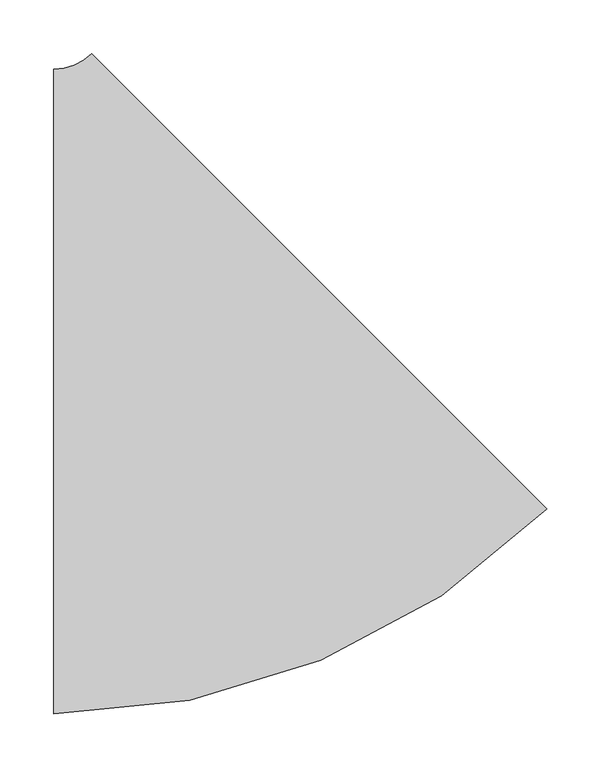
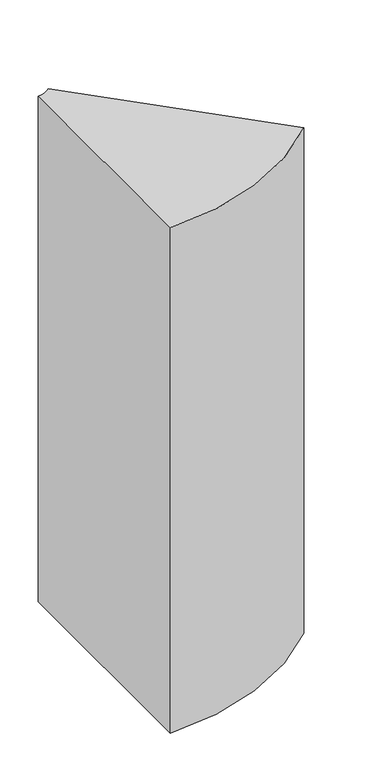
"""IFC4 building model written with IfcOpenShell, lengths in millimetres: duct fitting geometry, ADSK_ОтводВоздуховодов_Прямоугольный1 : Стандарт 2."""

import ifcopenshell
import ifcopenshell.guid

model = None  # the IFC model being written
_history = None  # IfcOwnerHistory: only IFC2X3 demands one
_inside = {}  # id of a spatial element -> (the spatial element, [elements in it])
_under = {}  # id of a project, library or spatial element -> (it, [spatial elements below it])
_declared = {}  # id of a project -> (the project, [libraries it declares])
_typed = {}  # id of a type object -> (the type object, [elements of that type])
_made_of = {}  # id of a material, layer set ... -> (it, [elements and type objects made of it])


def new_model(schema):
    """Start an empty IFC model of exactly this schema.

    Asked for "IFC4X3", IfcOpenShell would pick the latest addendum, in which some entities
    have other attributes; the version numbers below select the first issue.
    IFC2X3 requires an IfcOwnerHistory on every rooted entity: one is made here for all.
    """
    global model, _history
    if schema == "IFC4X3":
        model = ifcopenshell.file(schema_version=(4, 3, 0, 0))
    else:
        model = ifcopenshell.file(schema=schema)
    _inside.clear()
    _under.clear()
    _declared.clear()
    _typed.clear()
    _made_of.clear()
    _history = None
    if model.schema == "IFC2X3":
        org = make("IfcOrganization", Name="unknown")
        user = make(
            "IfcPersonAndOrganization",
            ThePerson=make("IfcPerson", FamilyName="unknown"),
            TheOrganization=org,
        )
        app = make(
            "IfcApplication",
            ApplicationDeveloper=org,
            Version="unknown",
            ApplicationFullName="unknown",
            ApplicationIdentifier="unknown",
        )
        _history = make(
            "IfcOwnerHistory",
            OwningUser=user,
            OwningApplication=app,
            ChangeAction="ADDED",
            CreationDate=0,
        )
    return model


def make(cls, **values):
    """One entity of the class cls with the attributes given. An attribute that is None is left unset."""
    return model.create_entity(
        cls, **{name: value for name, value in values.items() if value is not None}
    )


def rooted(cls, **values):
    """An entity with a GlobalId (a new one), such as an element, a storey or a relation."""
    return make(cls, GlobalId=ifcopenshell.guid.new(), OwnerHistory=_history, **values)


def si_unit(unit_type, name, prefix=None):
    """IfcSIUnit, for example si_unit("LENGTHUNIT", "METRE", prefix="MILLI")."""
    return make("IfcSIUnit", UnitType=unit_type, Prefix=prefix, Name=name)


def assignment(units):
    """IfcUnitAssignment: the units of a project."""
    return None if units is None else make("IfcUnitAssignment", Units=units)


def point(xyz):
    """IfcCartesianPoint."""
    return None if xyz is None else make("IfcCartesianPoint", Coordinates=xyz)


def direction(xyz):
    """IfcDirection."""
    return None if xyz is None else make("IfcDirection", DirectionRatios=xyz)


def frame(location, z_axis=None, x_axis=None):
    """IfcAxis2Placement3D, a coordinate frame: its origin and axes. An axis left out is left unset."""
    return make(
        "IfcAxis2Placement3D",
        Location=point(location),
        Axis=direction(z_axis),
        RefDirection=direction(x_axis),
    )


def frame_2d(location, x_axis=None):
    """IfcAxis2Placement2D, a coordinate frame in the plane: its origin and x axis."""
    return make(
        "IfcAxis2Placement2D", Location=point(location), RefDirection=direction(x_axis)
    )


def origin():
    """The frame at (0, 0, 0) with its axes left unset."""
    return frame((0.0, 0.0, 0.0))


def place(relative_to, where):
    """IfcLocalPlacement: puts the frame where relative to a parent placement (None: the world)."""
    return make(
        "IfcLocalPlacement", PlacementRelTo=relative_to, RelativePlacement=where
    )


def context(
    kind, dimensions, precision=None, world=None, true_north=None, identifier=None
):
    """IfcGeometricRepresentationContext, for example the 3D "Model" context."""
    return make(
        "IfcGeometricRepresentationContext",
        ContextIdentifier=identifier,
        ContextType=kind,
        CoordinateSpaceDimension=dimensions,
        Precision=precision,
        WorldCoordinateSystem=world,
        TrueNorth=true_north,
    )


def project(units=None, contexts=None):
    """IfcProject with its units and contexts."""
    return rooted(
        "IfcProject",
        Name="project",
        RepresentationContexts=contexts,
        UnitsInContext=assignment(units),
    )


def spatial(cls, under=None, at=None, **own):
    """A site, building, storey or space (cls), placed at a placement, below another one or the project."""
    s = rooted(cls, ObjectPlacement=at, **own)
    if under is not None:
        _under.setdefault(under.id(), (under, []))[1].append(s)
    return s


def polyline(points):
    """IfcPolyline through the points."""
    return make("IfcPolyline", Points=[point(p) for p in points])


def circle_curve(where, radius):
    """IfcCircle in the frame where."""
    return make("IfcCircle", Position=where, Radius=radius)


def trimmed(basis, trim1, trim2, sense, master):
    """IfcTrimmedCurve: the piece of a basis curve between two trims."""
    return make(
        "IfcTrimmedCurve",
        BasisCurve=basis,
        Trim1=trim1,
        Trim2=trim2,
        SenseAgreement=sense,
        MasterRepresentation=master,
    )


def segment(curve, same_sense, transition):
    """IfcCompositeCurveSegment."""
    return make(
        "IfcCompositeCurveSegment",
        Transition=transition,
        SameSense=same_sense,
        ParentCurve=curve,
    )


def composite_curve(segments, self_intersect=None):
    """IfcCompositeCurve: segments joined end to end."""
    return make("IfcCompositeCurve", Segments=segments, SelfIntersect=self_intersect)


def outline(outer, holes=None, kind="AREA"):
    """IfcArbitraryClosedProfileDef: a profile drawn as a closed curve; with holes, ...WithVoids."""
    if holes is None:
        return make("IfcArbitraryClosedProfileDef", ProfileType=kind, OuterCurve=outer)
    return make(
        "IfcArbitraryProfileDefWithVoids",
        ProfileType=kind,
        OuterCurve=outer,
        InnerCurves=holes,
    )


def extrude(swept, where, along, depth):
    """IfcExtrudedAreaSolid: the profile swept, set in the frame where, extruded along a direction by depth."""
    return make(
        "IfcExtrudedAreaSolid",
        SweptArea=swept,
        Position=where,
        ExtrudedDirection=direction(along),
        Depth=depth,
    )


def shape(context_of_items, identifier, shape_type, items):
    """IfcShapeRepresentation: the items that make up one representation, for example the "Body"."""
    return make(
        "IfcShapeRepresentation",
        ContextOfItems=context_of_items,
        RepresentationIdentifier=identifier,
        RepresentationType=shape_type,
        Items=items,
    )


def source(mapping_origin, context_of_items, identifier, shape_type, items):
    """IfcRepresentationMap: a shape defined once, which mapped items show again and again."""
    return make(
        "IfcRepresentationMap",
        MappingOrigin=mapping_origin,
        MappedRepresentation=shape(context_of_items, identifier, shape_type, items),
    )


def transform(
    local_origin,
    x_axis=None,
    y_axis=None,
    z_axis=None,
    scale=None,
    scale2=None,
    scale3=None,
    uniform=True,
):
    """IfcCartesianTransformationOperator3D, or its non-uniform kind. x_axis, y_axis, z_axis: its Axis1, 2, 3."""
    if uniform:
        return make(
            "IfcCartesianTransformationOperator3D",
            Axis1=direction(x_axis),
            Axis2=direction(y_axis),
            LocalOrigin=point(local_origin),
            Scale=scale,
            Axis3=direction(z_axis),
        )
    return make(
        "IfcCartesianTransformationOperator3DnonUniform",
        Axis1=direction(x_axis),
        Axis2=direction(y_axis),
        LocalOrigin=point(local_origin),
        Scale=scale,
        Axis3=direction(z_axis),
        Scale2=scale2,
        Scale3=scale3,
    )


def mapped(mapping_source, mapping_target):
    """IfcMappedItem: shows the shape of a source again, moved by a transform."""
    return make(
        "IfcMappedItem", MappingSource=mapping_source, MappingTarget=mapping_target
    )


def made_of(thing, what):
    """Note that an element or type object is made of a material, layer set ...; save() writes the relation."""
    if what is not None:
        _made_of.setdefault(what.id(), (what, []))[1].append(thing)
    return thing


def element(
    cls,
    number,
    at=None,
    inside=None,
    cuts=None,
    type_object=None,
    material=None,
    context=None,
    identifier="Body",
    shape_type=None,
    held_by="IfcProductDefinitionShape",
    body=None,
    shapes=None,
    **own,
):
    """One element of the class cls, such as IfcWall. Its Tag is "e" and its number.

    at: its placement. inside: the storey or other place that contains it. cuts: it is an
    opening in that element (IfcRelVoidsElement). A single representation is given by context,
    identifier, shape_type and body (its items); several are given by shapes. held_by: the class
    of the entity that holds the representations. save() writes the other relations.
    """
    e = rooted(cls, Tag="e%d" % number, ObjectPlacement=at, **own)
    if body is not None:
        shapes = [shape(context, identifier, shape_type, body)]
    if shapes is not None:
        e.Representation = make(held_by, Representations=shapes)
    if inside is not None:
        _inside.setdefault(inside.id(), (inside, []))[1].append(e)
    if cuts is not None:
        rooted(
            "IfcRelVoidsElement", RelatingBuildingElement=cuts, RelatedOpeningElement=e
        )
    if type_object is not None:
        _typed.setdefault(type_object.id(), (type_object, []))[1].append(e)
    return made_of(e, material)


def aggregate(whole, parts):
    """IfcRelAggregates: a whole, such as a stair, and the parts it consists of."""
    return rooted("IfcRelAggregates", RelatingObject=whole, RelatedObjects=parts)


def save(model, path):
    """Write the relations noted so far, then the file.

    IfcRelAggregates (storeys below a building ...), IfcRelContainedInSpatialStructure (elements
    in a storey), IfcRelDefinesByType, IfcRelAssociatesMaterial and IfcRelDeclares: one each for
    every whole, place, type object, material and project.
    """
    for whole, parts in _under.values():
        aggregate(whole, parts)
    for where, things in _inside.values():
        rooted(
            "IfcRelContainedInSpatialStructure",
            RelatedElements=things,
            RelatingStructure=where,
        )
    for kind, things in _typed.values():
        rooted("IfcRelDefinesByType", RelatedObjects=things, RelatingType=kind)
    for what, things in _made_of.values():
        rooted("IfcRelAssociatesMaterial", RelatedObjects=things, RelatingMaterial=what)
    for by, libraries in _declared.values():
        rooted("IfcRelDeclares", RelatingContext=by, RelatedDefinitions=libraries)
    model.write(path)


def duct_fitting_1a9f7e2c(model_context):
    return source(origin(), model_context, "Body", "SweptSolid", [
        extrude(outline(composite_curve([segment(trimmed(circle_curve(frame_2d((-144.9747468, 350.0)), 650.0), [point((314.6446609, -109.6194078))], [point((-144.9747468, -300.0))], False, "CARTESIAN"), True, "CONTINUOUS"), segment(polyline([(-144.9747468, -300.0), (-144.9747468, 300.0)]), True, "CONTINUOUS"), segment(trimmed(circle_curve(frame_2d((-144.9747468, 350.0)), 50.0), [point((-144.9747468, 300.0))], [point((-109.6194078, 314.6446609))], True, "CARTESIAN"), True, "CONTINUOUS"), segment(polyline([(-109.6194078, 314.6446609), (314.6446609, -109.6194078)]), True, "CONTINUOUS")], self_intersect=False)), frame((0.0, 0.0, -700.0), z_axis=(0.0, 0.0, 1.0), x_axis=(1.0, 0.0, 0.0)), (0.0, 0.0, 1.0), 1400.0),
    ])


if __name__ == "__main__":
    model = new_model("IFC4")
    model_context = context("Model", 3, world=origin())
    ifc_project = project(units=[si_unit("LENGTHUNIT", "METRE", prefix="MILLI")], contexts=[model_context])
    site = spatial("IfcSite", under=ifc_project)
    building = spatial("IfcBuilding", under=site)
    placement = place(None, origin())
    duct_fitting_shape = duct_fitting_1a9f7e2c(model_context)
    element("IfcDuctFitting", 1, ObjectType="ADSK_ОтводВоздуховодов_Прямоугольный1 : Стандарт 2", at=placement, inside=building, context=model_context, shape_type="MappedRepresentation", body=[
        mapped(duct_fitting_shape, transform((0.0, 0.0, 0.0), x_axis=(1.0, 0.0, 0.0), y_axis=(0.0, 1.0, 0.0), z_axis=(0.0, 0.0, 1.0))),
    ])
    save(model, "model.ifc")
